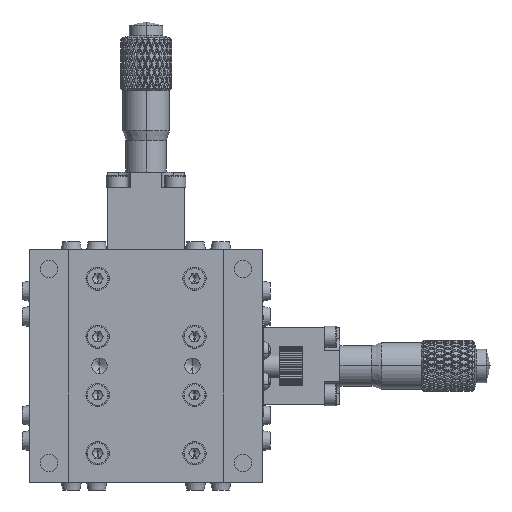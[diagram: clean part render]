
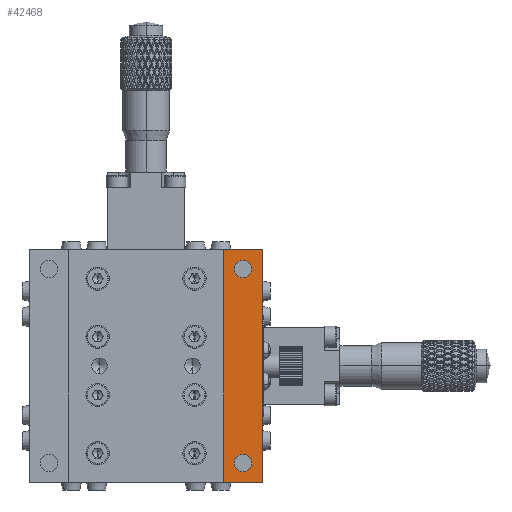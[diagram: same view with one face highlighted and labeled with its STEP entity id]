
A CAD part, front view. The second image highlights one B-rep face of the part: STEP entity #42468.
In plain terms, the highlighted planar face has unit normal (0, -1, 0).
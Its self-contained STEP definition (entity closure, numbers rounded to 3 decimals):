
#443 = CARTESIAN_POINT ( 'NONE',  ( -30., 0., 30. ) ) ;
#696 = DIRECTION ( 'NONE',  ( 0., 1., 0. ) ) ;
#1323 = VERTEX_POINT ( 'NONE', #38052 ) ;
#1615 = EDGE_CURVE ( 'NONE', #1323, #54764, #10952, .T. ) ;
#2023 = DIRECTION ( 'NONE',  ( 0., 0., 1. ) ) ;
#4090 = DIRECTION ( 'NONE',  ( 1., 0., 0. ) ) ;
#4931 = CIRCLE ( 'NONE', #42404, 2.25 ) ;
#6096 = CARTESIAN_POINT ( 'NONE',  ( 25., 0., -22.75 ) ) ;
#6360 = ORIENTED_EDGE ( 'NONE', *, *, #46040, .F. ) ;
#9738 = VERTEX_POINT ( 'NONE', #6096 ) ;
#10405 = EDGE_CURVE ( 'NONE', #35027, #39789, #60220, .T. ) ;
#10717 = CIRCLE ( 'NONE', #22015, 2.25 ) ;
#10952 = LINE ( 'NONE', #443, #23621 ) ;
#11359 = CARTESIAN_POINT ( 'NONE',  ( -30., 0., 30. ) ) ;
#12117 = AXIS2_PLACEMENT_3D ( 'NONE', #49974, #17809, #55462 ) ;
#12526 = EDGE_LOOP ( 'NONE', ( #52419, #65889 ) ) ;
#13427 = VECTOR ( 'NONE', #4090, 1000. ) ;
#14240 = EDGE_CURVE ( 'NONE', #58099, #57237, #38647, .T. ) ;
#17809 = DIRECTION ( 'NONE',  ( 0., 1., 0. ) ) ;
#20654 = CARTESIAN_POINT ( 'NONE',  ( 20., 0., -30. ) ) ;
#21437 = CARTESIAN_POINT ( 'NONE',  ( 30., 0., 30. ) ) ;
#22015 = AXIS2_PLACEMENT_3D ( 'NONE', #25796, #63436, #31169 ) ;
#23621 = VECTOR ( 'NONE', #59578, 1000. ) ;
#24099 = ORIENTED_EDGE ( 'NONE', *, *, #14240, .T. ) ;
#24206 = VECTOR ( 'NONE', #46399, 1000. ) ;
#25796 = CARTESIAN_POINT ( 'NONE',  ( 25., 0., 25. ) ) ;
#26727 = DIRECTION ( 'NONE',  ( 0., 1., 0. ) ) ;
#26994 = FACE_BOUND ( 'NONE', #66431, .T. ) ;
#27293 = EDGE_CURVE ( 'NONE', #9738, #42151, #44716, .T. ) ;
#28539 = EDGE_LOOP ( 'NONE', ( #39562, #6360, #24099, #65580 ) ) ;
#29730 = VECTOR ( 'NONE', #44269, 1000. ) ;
#30461 = FACE_BOUND ( 'NONE', #12526, .T. ) ;
#31169 = DIRECTION ( 'NONE',  ( 0., 0., 1. ) ) ;
#32992 = PLANE ( 'NONE',  #53106 ) ;
#34308 = DIRECTION ( 'NONE',  ( 0., 1., 0. ) ) ;
#35027 = VERTEX_POINT ( 'NONE', #40822 ) ;
#36361 = CARTESIAN_POINT ( 'NONE',  ( -30., 0., -30. ) ) ;
#36524 = CARTESIAN_POINT ( 'NONE',  ( 30., 0., -30. ) ) ;
#38052 = CARTESIAN_POINT ( 'NONE',  ( 20., 0., 30. ) ) ;
#38437 = DIRECTION ( 'NONE',  ( 0., 0., 1. ) ) ;
#38472 = LINE ( 'NONE', #67783, #24206 ) ;
#38647 = LINE ( 'NONE', #36361, #13427 ) ;
#38873 = CARTESIAN_POINT ( 'NONE',  ( 20., 0., 30. ) ) ;
#39562 = ORIENTED_EDGE ( 'NONE', *, *, #1615, .F. ) ;
#39670 = CARTESIAN_POINT ( 'NONE',  ( 25., 0., 27.25 ) ) ;
#39789 = VERTEX_POINT ( 'NONE', #39670 ) ;
#40822 = CARTESIAN_POINT ( 'NONE',  ( 25., 0., 22.75 ) ) ;
#41323 = FACE_OUTER_BOUND ( 'NONE', #28539, .T. ) ;
#42151 = VERTEX_POINT ( 'NONE', #55934 ) ;
#42404 = AXIS2_PLACEMENT_3D ( 'NONE', #66551, #34308, #2023 ) ;
#42468 = ADVANCED_FACE ( 'NONE', ( #30461, #26994, #41323 ), #32992, .F. ) ;
#43938 = EDGE_CURVE ( 'NONE', #42151, #9738, #4931, .T. ) ;
#44269 = DIRECTION ( 'NONE',  ( 0., 0., 1. ) ) ;
#44716 = CIRCLE ( 'NONE', #12117, 2.25 ) ;
#45735 = LINE ( 'NONE', #38873, #29730 ) ;
#46040 = EDGE_CURVE ( 'NONE', #58099, #1323, #45735, .T. ) ;
#46399 = DIRECTION ( 'NONE',  ( 0., 0., -1. ) ) ;
#47032 = ORIENTED_EDGE ( 'NONE', *, *, #27293, .T. ) ;
#49974 = CARTESIAN_POINT ( 'NONE',  ( 25., 0., -25. ) ) ;
#52419 = ORIENTED_EDGE ( 'NONE', *, *, #52865, .T. ) ;
#52865 = EDGE_CURVE ( 'NONE', #39789, #35027, #10717, .T. ) ;
#53106 = AXIS2_PLACEMENT_3D ( 'NONE', #11359, #696, #38437 ) ;
#53250 = EDGE_CURVE ( 'NONE', #54764, #57237, #38472, .T. ) ;
#53727 = ORIENTED_EDGE ( 'NONE', *, *, #43938, .T. ) ;
#54764 = VERTEX_POINT ( 'NONE', #21437 ) ;
#55462 = DIRECTION ( 'NONE',  ( 0., 0., 1. ) ) ;
#55934 = CARTESIAN_POINT ( 'NONE',  ( 25., 0., -27.25 ) ) ;
#57237 = VERTEX_POINT ( 'NONE', #36524 ) ;
#58099 = VERTEX_POINT ( 'NONE', #20654 ) ;
#58977 = CARTESIAN_POINT ( 'NONE',  ( 25., 0., 25. ) ) ;
#59578 = DIRECTION ( 'NONE',  ( 1., 0., 0. ) ) ;
#60220 = CIRCLE ( 'NONE', #69814, 2.25 ) ;
#63436 = DIRECTION ( 'NONE',  ( 0., 1., 0. ) ) ;
#64372 = DIRECTION ( 'NONE',  ( 0., 0., 1. ) ) ;
#65580 = ORIENTED_EDGE ( 'NONE', *, *, #53250, .F. ) ;
#65889 = ORIENTED_EDGE ( 'NONE', *, *, #10405, .T. ) ;
#66431 = EDGE_LOOP ( 'NONE', ( #47032, #53727 ) ) ;
#66551 = CARTESIAN_POINT ( 'NONE',  ( 25., 0., -25. ) ) ;
#67783 = CARTESIAN_POINT ( 'NONE',  ( 30., 0., 30. ) ) ;
#69814 = AXIS2_PLACEMENT_3D ( 'NONE', #58977, #26727, #64372 ) ;
